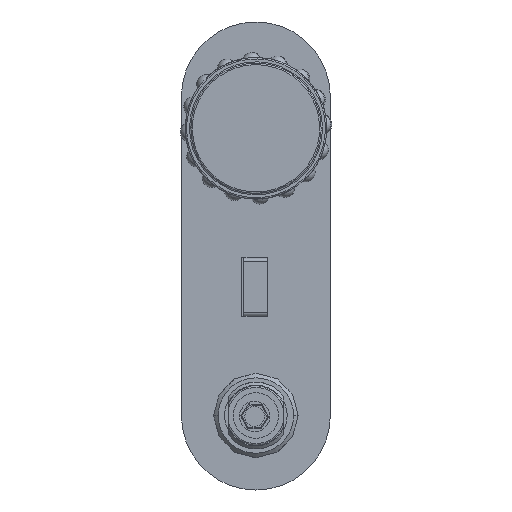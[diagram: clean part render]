
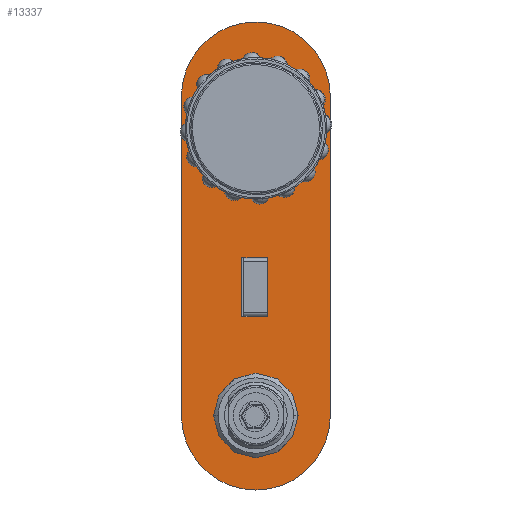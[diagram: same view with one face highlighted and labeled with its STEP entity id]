
A CAD part, front view. The second image highlights one B-rep face of the part: STEP entity #13337.
In plain terms, the highlighted planar face has unit normal (0, -1, 0).
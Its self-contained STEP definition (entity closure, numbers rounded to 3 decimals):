
#5691 = DIRECTION ( 'NONE',  ( -1., 0., 0. ) ) ;
#5692 = DIRECTION ( 'NONE',  ( 0., -1., 0. ) ) ;
#5693 = AXIS2_PLACEMENT_3D ( 'NONE', #5705, #5692, #5691 ) ;
#5697 = CIRCLE ( 'NONE', #5693, 22.5 ) ;
#5705 = CARTESIAN_POINT ( 'NONE',  ( 0., 0., 95. ) ) ;
#5765 = CARTESIAN_POINT ( 'NONE',  ( -22.5, 0., 95. ) ) ;
#5830 = CARTESIAN_POINT ( 'NONE',  ( 22.5, 0., 95. ) ) ;
#5983 = AXIS2_PLACEMENT_3D ( 'NONE', #6029, #6028, #6027 ) ;
#6009 = CARTESIAN_POINT ( 'NONE',  ( 11., 0., 0. ) ) ;
#6027 = DIRECTION ( 'NONE',  ( -1., 0., 0. ) ) ;
#6028 = DIRECTION ( 'NONE',  ( 0., -1., 0. ) ) ;
#6029 = CARTESIAN_POINT ( 'NONE',  ( 0., 0., 0. ) ) ;
#6038 = CIRCLE ( 'NONE', #5983, 11. ) ;
#6039 = CARTESIAN_POINT ( 'NONE',  ( -11., 0., 0. ) ) ;
#6221 = CARTESIAN_POINT ( 'NONE',  ( 3.886, 0., 32.5 ) ) ;
#6238 = CARTESIAN_POINT ( 'NONE',  ( 24.5, 0., 0. ) ) ;
#6264 = LINE ( 'NONE', #6322, #6321 ) ;
#6265 = DIRECTION ( 'NONE',  ( 0., -1., 0. ) ) ;
#6270 = CIRCLE ( 'NONE', #6318, 22.5 ) ;
#6273 = CIRCLE ( 'NONE', #6283, 11. ) ;
#6276 = CARTESIAN_POINT ( 'NONE',  ( 0., 0., 0. ) ) ;
#6283 = AXIS2_PLACEMENT_3D ( 'NONE', #6276, #6316, #6315 ) ;
#6292 = CARTESIAN_POINT ( 'NONE',  ( -4.614, 0., 32.5 ) ) ;
#6293 = DIRECTION ( 'NONE',  ( 0., 0., -1. ) ) ;
#6294 = VECTOR ( 'NONE', #6293, 1000. ) ;
#6295 = CARTESIAN_POINT ( 'NONE',  ( -24.5, 0., 105. ) ) ;
#6296 = LINE ( 'NONE', #6295, #6294 ) ;
#6297 = AXIS2_PLACEMENT_3D ( 'NONE', #6355, #6304, #6351 ) ;
#6298 = CARTESIAN_POINT ( 'NONE',  ( -24.5, 0., 105. ) ) ;
#6299 = DIRECTION ( 'NONE',  ( 0., 0., 1. ) ) ;
#6300 = VECTOR ( 'NONE', #6299, 1000. ) ;
#6302 = DIRECTION ( 'NONE',  ( 0., 0., -1. ) ) ;
#6303 = CARTESIAN_POINT ( 'NONE',  ( 3.886, 0., 52. ) ) ;
#6304 = DIRECTION ( 'NONE',  ( 0., 1., 0. ) ) ;
#6305 = DIRECTION ( 'NONE',  ( -1., 0., 0. ) ) ;
#6306 = VECTOR ( 'NONE', #6305, 1000. ) ;
#6307 = CARTESIAN_POINT ( 'NONE',  ( -4.614, 0., 52. ) ) ;
#6308 = CARTESIAN_POINT ( 'NONE',  ( 0., 0., 105. ) ) ;
#6309 = CIRCLE ( 'NONE', #6317, 24.5 ) ;
#6310 = DIRECTION ( 'NONE',  ( -1., 0., 0. ) ) ;
#6311 = DIRECTION ( 'NONE',  ( 0., -1., 0. ) ) ;
#6312 = CARTESIAN_POINT ( 'NONE',  ( 0., 0., 95. ) ) ;
#6313 = LINE ( 'NONE', #6307, #6306 ) ;
#6314 = LINE ( 'NONE', #6303, #6300 ) ;
#6315 = DIRECTION ( 'NONE',  ( -1., 0., 0. ) ) ;
#6316 = DIRECTION ( 'NONE',  ( 0., -1., 0. ) ) ;
#6317 = AXIS2_PLACEMENT_3D ( 'NONE', #6308, #6265, #6302 ) ;
#6318 = AXIS2_PLACEMENT_3D ( 'NONE', #6312, #6311, #6310 ) ;
#6320 = DIRECTION ( 'NONE',  ( 0., 0., 1. ) ) ;
#6321 = VECTOR ( 'NONE', #6320, 1000. ) ;
#6322 = CARTESIAN_POINT ( 'NONE',  ( 24.5, 0., 0. ) ) ;
#6325 = VECTOR ( 'NONE', #6327, 1000. ) ;
#6327 = DIRECTION ( 'NONE',  ( 0., 0., -1. ) ) ;
#6328 = CARTESIAN_POINT ( 'NONE',  ( -4.614, 0., 52. ) ) ;
#6329 = DIRECTION ( 'NONE',  ( -1., 0., 0. ) ) ;
#6330 = DIRECTION ( 'NONE',  ( 0., 1., 0. ) ) ;
#6334 = DIRECTION ( 'NONE',  ( 1., 0., 0. ) ) ;
#6335 = VECTOR ( 'NONE', #6334, 1000. ) ;
#6336 = CARTESIAN_POINT ( 'NONE',  ( -4.614, 0., 32.5 ) ) ;
#6337 = LINE ( 'NONE', #6336, #6335 ) ;
#6338 = FACE_OUTER_BOUND ( 'NONE', #13336, .T. ) ;
#6339 = LINE ( 'NONE', #6328, #6325 ) ;
#6340 = FACE_BOUND ( 'NONE', #13266, .T. ) ;
#6343 = CARTESIAN_POINT ( 'NONE',  ( -13.926, 0., 105. ) ) ;
#6344 = AXIS2_PLACEMENT_3D ( 'NONE', #6343, #6330, #6329 ) ;
#6345 = FACE_BOUND ( 'NONE', #13273, .T. ) ;
#6347 = FACE_BOUND ( 'NONE', #13311, .T. ) ;
#6348 = PLANE ( 'NONE',  #6344 ) ;
#6349 = CARTESIAN_POINT ( 'NONE',  ( 3.886, 0., 52. ) ) ;
#6350 = CARTESIAN_POINT ( 'NONE',  ( -24.5, 0., 0. ) ) ;
#6351 = DIRECTION ( 'NONE',  ( 0., 0., 1. ) ) ;
#6352 = CARTESIAN_POINT ( 'NONE',  ( -4.614, 0., 52. ) ) ;
#6355 = CARTESIAN_POINT ( 'NONE',  ( 0., 0., 0. ) ) ;
#6356 = CARTESIAN_POINT ( 'NONE',  ( 24.5, 0., 105. ) ) ;
#6357 = CIRCLE ( 'NONE', #6297, 24.5 ) ;
#13009 = EDGE_CURVE ( 'NONE', #13087, #13024, #5697, .T. ) ;
#13024 = VERTEX_POINT ( 'NONE', #5765 ) ;
#13087 = VERTEX_POINT ( 'NONE', #5830 ) ;
#13159 = VERTEX_POINT ( 'NONE', #6039 ) ;
#13161 = EDGE_CURVE ( 'NONE', #13173, #13159, #6038, .T. ) ;
#13173 = VERTEX_POINT ( 'NONE', #6009 ) ;
#13263 = ORIENTED_EDGE ( 'NONE', *, *, #13009, .F. ) ;
#13266 = EDGE_LOOP ( 'NONE', ( #13339, #13338, #13319, #13322 ) ) ;
#13273 = EDGE_LOOP ( 'NONE', ( #13377, #13263 ) ) ;
#13275 = VERTEX_POINT ( 'NONE', #6221 ) ;
#13286 = VERTEX_POINT ( 'NONE', #6238 ) ;
#13306 = EDGE_CURVE ( 'NONE', #13286, #13327, #6264, .T. ) ;
#13307 = ORIENTED_EDGE ( 'NONE', *, *, #13306, .T. ) ;
#13308 = EDGE_CURVE ( 'NONE', #13159, #13173, #6273, .T. ) ;
#13310 = ORIENTED_EDGE ( 'NONE', *, *, #13318, .T. ) ;
#13311 = EDGE_LOOP ( 'NONE', ( #13312, #13315 ) ) ;
#13312 = ORIENTED_EDGE ( 'NONE', *, *, #13308, .F. ) ;
#13315 = ORIENTED_EDGE ( 'NONE', *, *, #13161, .F. ) ;
#13316 = EDGE_CURVE ( 'NONE', #13024, #13087, #6270, .T. ) ;
#13317 = EDGE_CURVE ( 'NONE', #13330, #13331, #6313, .T. ) ;
#13318 = EDGE_CURVE ( 'NONE', #13327, #13323, #6309, .T. ) ;
#13319 = ORIENTED_EDGE ( 'NONE', *, *, #13317, .F. ) ;
#13320 = EDGE_CURVE ( 'NONE', #13275, #13330, #6314, .T. ) ;
#13321 = EDGE_CURVE ( 'NONE', #13323, #13341, #6296, .T. ) ;
#13322 = ORIENTED_EDGE ( 'NONE', *, *, #13320, .F. ) ;
#13323 = VERTEX_POINT ( 'NONE', #6298 ) ;
#13324 = ORIENTED_EDGE ( 'NONE', *, *, #13321, .T. ) ;
#13325 = ORIENTED_EDGE ( 'NONE', *, *, #13326, .F. ) ;
#13326 = EDGE_CURVE ( 'NONE', #13286, #13341, #6357, .T. ) ;
#13327 = VERTEX_POINT ( 'NONE', #6356 ) ;
#13328 = VERTEX_POINT ( 'NONE', #6292 ) ;
#13330 = VERTEX_POINT ( 'NONE', #6349 ) ;
#13331 = VERTEX_POINT ( 'NONE', #6352 ) ;
#13335 = EDGE_CURVE ( 'NONE', #13328, #13275, #6337, .T. ) ;
#13336 = EDGE_LOOP ( 'NONE', ( #13324, #13325, #13307, #13310 ) ) ;
#13337 = ADVANCED_FACE ( 'NONE', ( #6340, #6338, #6347, #6345 ), #6348, .F. ) ;
#13338 = ORIENTED_EDGE ( 'NONE', *, *, #13340, .F. ) ;
#13339 = ORIENTED_EDGE ( 'NONE', *, *, #13335, .F. ) ;
#13340 = EDGE_CURVE ( 'NONE', #13331, #13328, #6339, .T. ) ;
#13341 = VERTEX_POINT ( 'NONE', #6350 ) ;
#13377 = ORIENTED_EDGE ( 'NONE', *, *, #13316, .F. ) ;
